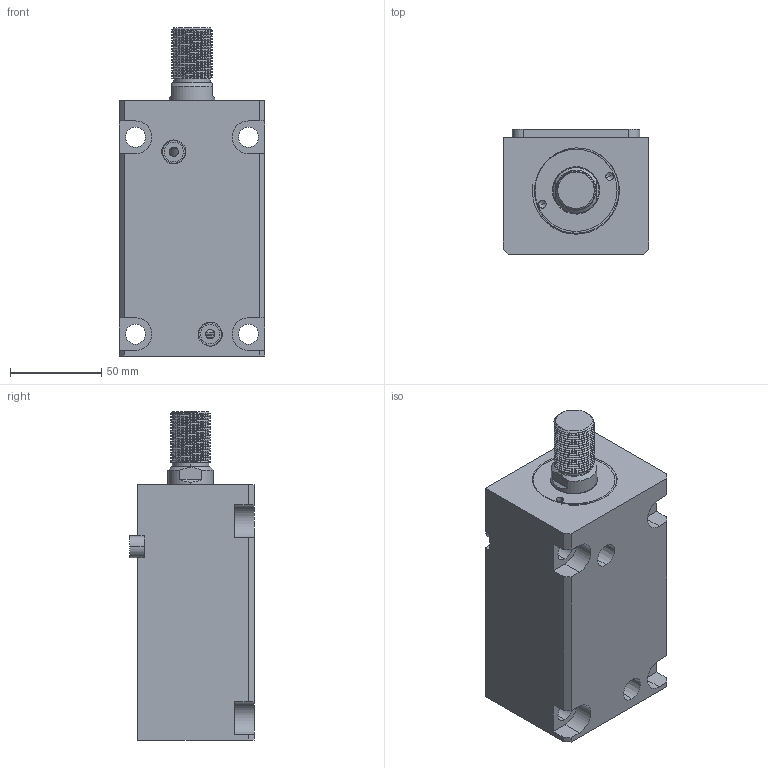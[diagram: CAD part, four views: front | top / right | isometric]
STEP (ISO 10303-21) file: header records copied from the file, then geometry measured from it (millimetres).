
FILE_DESCRIPTION (( 'STEP AP214' ), '1' );
FILE_NAME ('chtb-la40x85w_asm.STEP', '2018-06-02T08:35:52', ( 'Windows' ), ( 'Microsoft' ), 'SwSTEP 2.0', 'SolidWorks 2015', '' );
FILE_SCHEMA (( 'AUTOMOTIVE_DESIGN' ));
Length unit declared in the file: millimetre
Products named in the file (5): CHTB-SD40QG; CHTB-LA40PJ; CHTB-SD40X85WHSG; CHTB-LA40X85NBT; chtb-la40x85w_asm
Assembly tree (4 placements, depth 2):
  chtb-la40x85w_asm
    CHTB-LA40X85NBT
    CHTB-SD40X85WHSG
    CHTB-LA40PJ
    CHTB-SD40QG
Bounding box: 80 x 68.5 x 180 mm (x, y, z)
Volume: 628797 mm3; surface area: 109302.1 mm2
Topology: 4 solids, 5 shells, 205 faces, 559 edges, 373 vertices
Faces by surface type: cylinder 111, plane 52, bspline 16, cone 14, torus 12
Entity records: 13775 total; most frequent: CARTESIAN_POINT 8706, ORIENTED_EDGE 1106, DIRECTION 926, EDGE_CURVE 553, VERTEX_POINT 373, AXIS2_PLACEMENT_3D 363, EDGE_LOOP 234, ADVANCED_FACE 205
